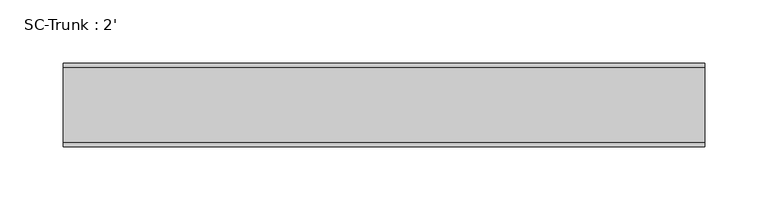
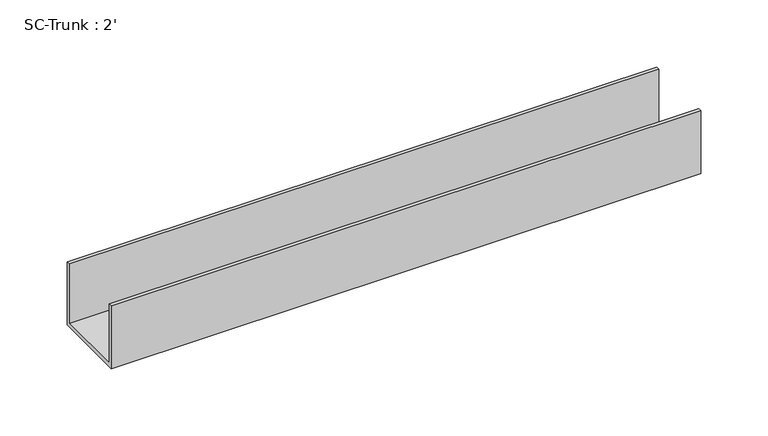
"""IFC4 building model written with IfcOpenShell, lengths in millimetres: proxy geometry, SC-Trunk : 2'."""

from ifc_helpers import new_model, si_unit, frame, origin, place, context, project, spatial, polyline, outline, extrude, source, transform, mapped, element, save


def sc_trunk_2_c930d22d(model_context):
    return source(origin(), model_context, "Body", "SweptSolid", [
        extrude(outline(polyline([(29.845, 57.15), (33.02, 57.15), (33.02, 0.0), (-33.02, 0.0), (-33.02, 57.15), (-29.845, 57.15), (-29.845, 3.175), (29.845, 3.175), (29.845, 57.15)])), frame((-254.0, 0.0, 0.0), z_axis=(1.0, 0.0, 0.0), x_axis=(0.0, 1.0, 0.0)), (0.0, 0.0, 1.0), 508.0),
    ])


if __name__ == "__main__":
    model = new_model("IFC4")
    model_context = context("Model", 3, world=origin())
    ifc_project = project(units=[si_unit("LENGTHUNIT", "METRE", prefix="MILLI")], contexts=[model_context])
    site = spatial("IfcSite", under=ifc_project)
    building = spatial("IfcBuilding", under=site)
    placement = place(None, origin())
    sc_trunk_2_shape = sc_trunk_2_c930d22d(model_context)
    element("IfcBuildingElementProxy", 1, Name="SC-Trunk : 2'", ObjectType="SC-Trunk : 2'", at=placement, inside=building, context=model_context, shape_type="MappedRepresentation", body=[
        mapped(sc_trunk_2_shape, transform((0.0, 0.0, 0.0), x_axis=(1.0, 0.0, 0.0), y_axis=(0.0, 1.0, 0.0), z_axis=(0.0, 0.0, 1.0))),
    ])
    save(model, "model.ifc")
